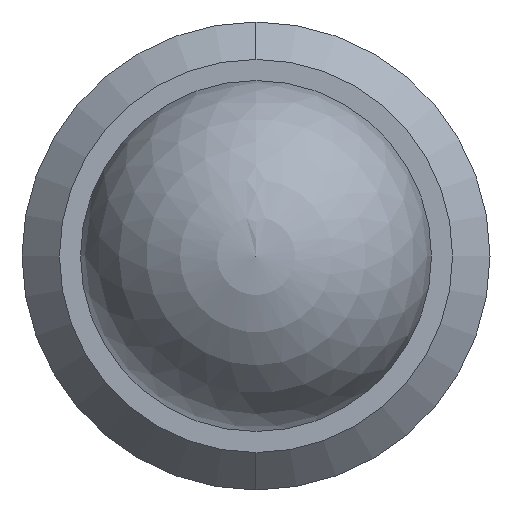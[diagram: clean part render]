
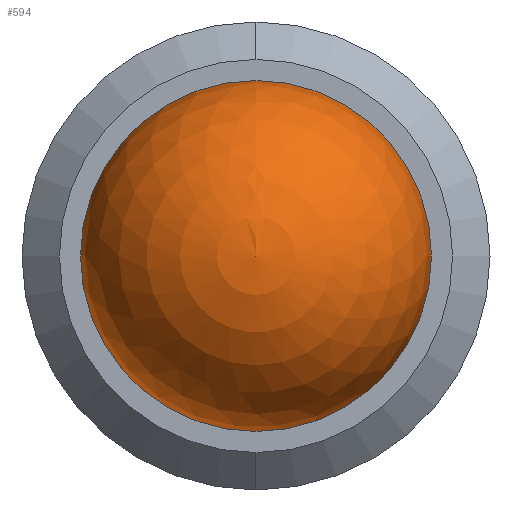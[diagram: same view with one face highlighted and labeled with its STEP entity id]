
A CAD part, left-side view. The second image highlights one B-rep face of the part: STEP entity #594.
In plain terms, the highlighted spherical face has radius 2.381 mm.
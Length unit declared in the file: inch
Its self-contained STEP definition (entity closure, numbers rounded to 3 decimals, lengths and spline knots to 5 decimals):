
#19 = CARTESIAN_POINT ( 'NONE',  ( 0., 0., 0. ) ) ;
#22 = AXIS2_PLACEMENT_3D ( 'NONE', #48, #305, #629 ) ;
#43 = EDGE_CURVE ( 'NONE', #125, #389, #261, .T. ) ;
#48 = CARTESIAN_POINT ( 'NONE',  ( 0., 0., 0. ) ) ;
#103 = DIRECTION ( 'NONE',  ( -1., 0., 0. ) ) ;
#123 = DIRECTION ( 'NONE',  ( 1., 0., 0. ) ) ;
#125 = VERTEX_POINT ( 'NONE', #563 ) ;
#192 = FACE_OUTER_BOUND ( 'NONE', #496, .T. ) ;
#209 = DIRECTION ( 'NONE',  ( 0., 0., 1. ) ) ;
#222 = CARTESIAN_POINT ( 'NONE',  ( 0., -0.09375, 0. ) ) ;
#235 = AXIS2_PLACEMENT_3D ( 'NONE', #441, #123, #491 ) ;
#261 = CIRCLE ( 'NONE', #22, 0.09375 ) ;
#305 = DIRECTION ( 'NONE',  ( -1., 0., 0. ) ) ;
#350 = SPHERICAL_SURFACE ( 'NONE', #508, 0.09375 ) ;
#367 = ORIENTED_EDGE ( 'NONE', *, *, #43, .T. ) ;
#389 = VERTEX_POINT ( 'NONE', #222 ) ;
#407 = EDGE_CURVE ( 'NONE', #125, #389, #502, .T. ) ;
#441 = CARTESIAN_POINT ( 'NONE',  ( 0., 0., 0. ) ) ;
#491 = DIRECTION ( 'NONE',  ( 0., 0., -1. ) ) ;
#496 = EDGE_LOOP ( 'NONE', ( #619, #367 ) ) ;
#502 = CIRCLE ( 'NONE', #235, 0.09375 ) ;
#508 = AXIS2_PLACEMENT_3D ( 'NONE', #19, #103, #209 ) ;
#563 = CARTESIAN_POINT ( 'NONE',  ( 0., 0.09375, 0. ) ) ;
#594 = ADVANCED_FACE ( 'NONE', ( #192 ), #350, .T. ) ;
#619 = ORIENTED_EDGE ( 'NONE', *, *, #407, .F. ) ;
#629 = DIRECTION ( 'NONE',  ( 0., 0., 1. ) ) ;
